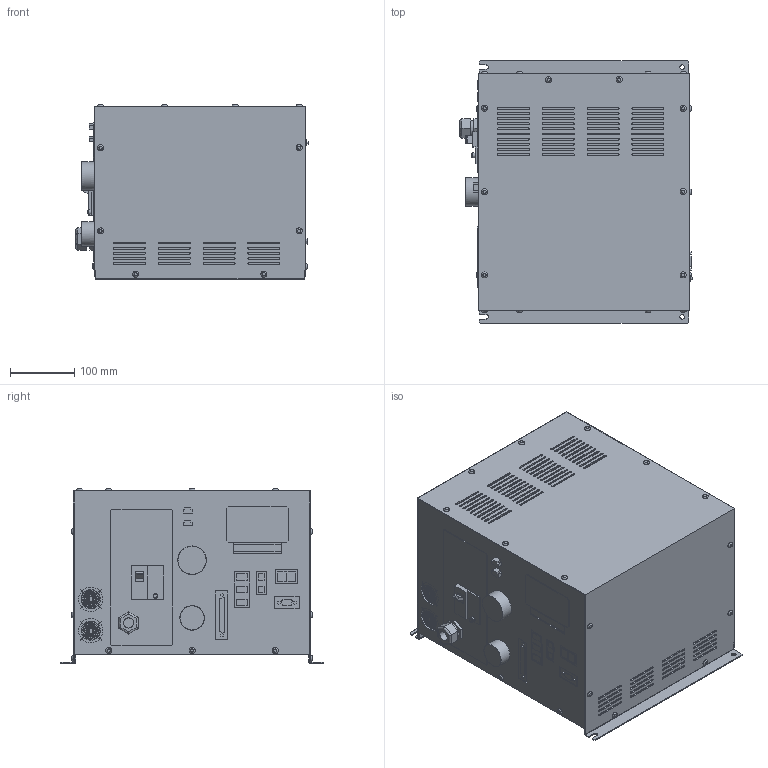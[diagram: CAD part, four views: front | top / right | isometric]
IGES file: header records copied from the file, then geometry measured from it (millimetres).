
Global section: file name: C5000S-06489; native system: Autodesk Inventor 2016; preprocessor: unknown; author: h-mitaka; date: 20160525.140901; units: millimetre
Bounding box: 362.5 x 410 x 272.5 mm (x, y, z)
Volume: 31471716.6 mm3; surface area: 733984.4 mm2
Topology: 9 solids, 9 shells, 826 faces, 2114 edges, 1396 vertices
Faces by surface type: bspline 826
